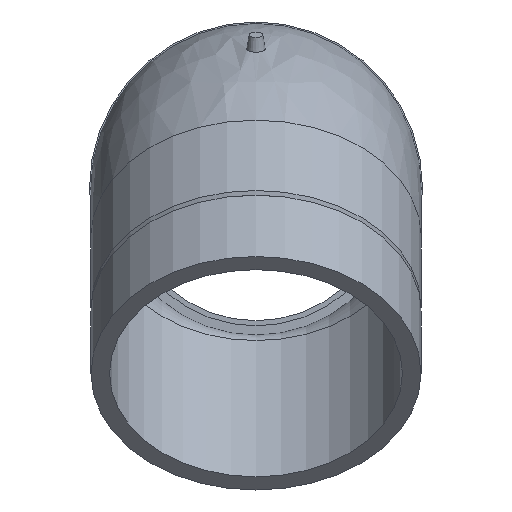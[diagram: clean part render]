
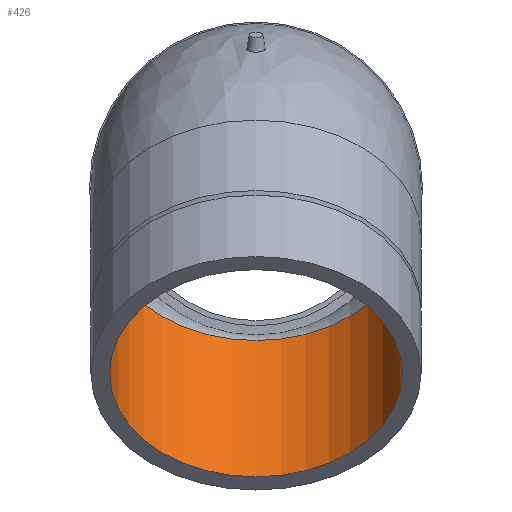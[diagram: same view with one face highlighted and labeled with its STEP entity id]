
A CAD part, left-side view. The second image highlights one B-rep face of the part: STEP entity #426.
In plain terms, the highlighted cylindrical face has radius 48.8 mm (diameter 97.6 mm), a full revolution.
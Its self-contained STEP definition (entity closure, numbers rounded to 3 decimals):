
#44=CYLINDRICAL_SURFACE($,#496,48.8);
#82=FACE_BOUND($,#175,.T.);
#111=FACE_OUTER_BOUND($,#174,.T.);
#174=EDGE_LOOP($,(#342));
#175=EDGE_LOOP($,(#343));
#210=CIRCLE($,#495,48.8);
#211=CIRCLE($,#497,48.8);
#243=VERTEX_POINT($,#861);
#244=VERTEX_POINT($,#864);
#277=EDGE_CURVE($,#243,#243,#210,.T.);
#278=EDGE_CURVE($,#244,#244,#211,.T.);
#342=ORIENTED_EDGE($,*,*,#278,.F.);
#343=ORIENTED_EDGE($,*,*,#277,.F.);
#426=ADVANCED_FACE($,(#111,#82),#44,.F.);
#495=AXIS2_PLACEMENT_3D($,#862,#628,#629);
#496=AXIS2_PLACEMENT_3D($,#863,#630,#631);
#497=AXIS2_PLACEMENT_3D($,#865,#632,#633);
#628=DIRECTION('center_axis',(0.,-1.,0.));
#629=DIRECTION('ref_axis',(1.,0.,0.));
#630=DIRECTION('center_axis',(0.,1.,0.));
#631=DIRECTION('ref_axis',(1.,0.,0.));
#632=DIRECTION('center_axis',(0.,1.,0.));
#633=DIRECTION('ref_axis',(1.,0.,0.));
#861=CARTESIAN_POINT('',(-48.8,64.218,0.));
#862=CARTESIAN_POINT('Origin',(0.,64.218,0.));
#863=CARTESIAN_POINT('Origin',(0.,0.,0.));
#864=CARTESIAN_POINT('',(-48.8,0.,0.));
#865=CARTESIAN_POINT('Origin',(0.,0.,0.));
